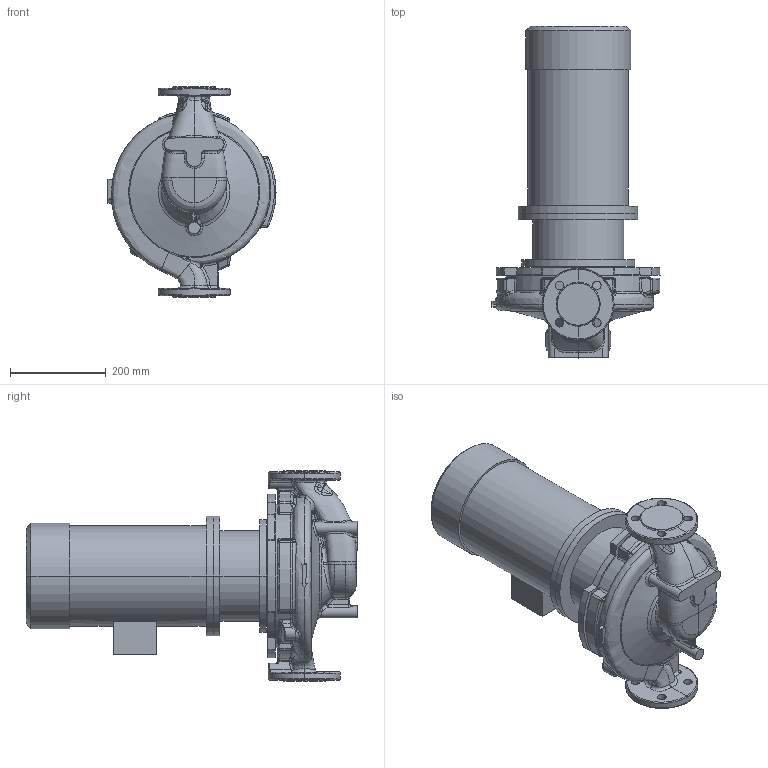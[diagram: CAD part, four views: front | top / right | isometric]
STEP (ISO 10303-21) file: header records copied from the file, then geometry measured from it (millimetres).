
FILE_DESCRIPTION (( 'STEP AP203' ), '1' );
FILE_NAME ('KRL 40-250-269-4-4.STEP', '2026-05-12T09:39:44', ( '' ), ( '' ), 'SwSTEP 2.0', 'SolidWorks 2016', '' );
FILE_SCHEMA (( 'CONFIG_CONTROL_DESIGN' ));
Length unit declared in the file: millimetre
Products named in the file (1): KRL 40-250-269-4-4
Bounding box: 351 x 693.3 x 440 mm (x, y, z)
Volume: 29777962.7 mm3; surface area: 1239104.9 mm2
Topology: 4 solids, 4 shells, 675 faces, 1613 edges, 948 vertices
Faces by surface type: bspline 316, cylinder 134, plane 105, sphere 44, cone 42, torus 34
Entity records: 60256 total; most frequent: CARTESIAN_POINT 47295, ORIENTED_EDGE 3188, DIRECTION 2046, EDGE_CURVE 1594, VERTEX_POINT 948, AXIS2_PLACEMENT_3D 892, EDGE_LOOP 712, B_SPLINE_CURVE_WITH_KNOTS 675
